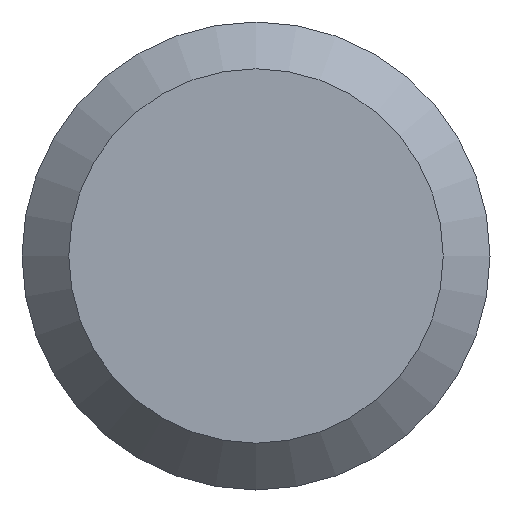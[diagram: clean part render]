
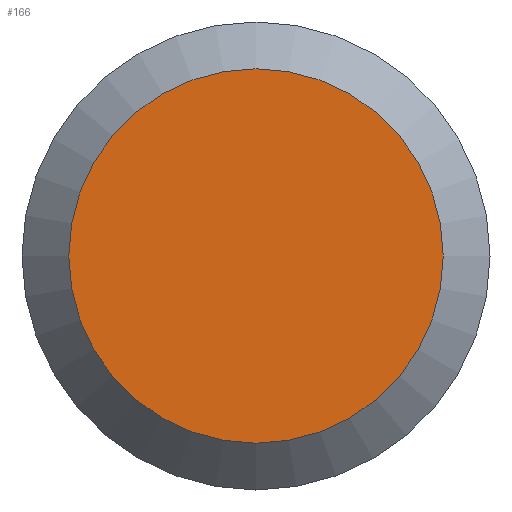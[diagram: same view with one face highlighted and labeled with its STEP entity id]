
A CAD part, left-side view. The second image highlights one B-rep face of the part: STEP entity #166.
In plain terms, the highlighted planar face has unit normal (-1, 0, 0).
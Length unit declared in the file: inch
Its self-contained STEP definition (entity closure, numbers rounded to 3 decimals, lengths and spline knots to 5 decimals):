
#5 = CARTESIAN_POINT ( 'NONE',  ( 0., 0., -0.1208 ) ) ;
#15 = ORIENTED_EDGE ( 'NONE', *, *, #18, .T. ) ;
#18 = EDGE_CURVE ( 'NONE', #243, #243, #53, .T. ) ;
#20 = DIRECTION ( 'NONE',  ( 0., 0., -1. ) ) ;
#21 = DIRECTION ( 'NONE',  ( 1., 0., 0. ) ) ;
#22 = EDGE_LOOP ( 'NONE', ( #15 ) ) ;
#26 = DIRECTION ( 'NONE',  ( 0., 0., -1. ) ) ;
#53 = CIRCLE ( 'NONE', #228, 0.1208 ) ;
#59 = CARTESIAN_POINT ( 'NONE',  ( 0., 0., 0. ) ) ;
#116 = PLANE ( 'NONE',  #155 ) ;
#119 = CARTESIAN_POINT ( 'NONE',  ( 0., 0.151, 0. ) ) ;
#124 = DIRECTION ( 'NONE',  ( -1., 0., 0. ) ) ;
#155 = AXIS2_PLACEMENT_3D ( 'NONE', #119, #21, #26 ) ;
#166 = ADVANCED_FACE ( 'NONE', ( #244 ), #116, .F. ) ;
#228 = AXIS2_PLACEMENT_3D ( 'NONE', #59, #124, #20 ) ;
#243 = VERTEX_POINT ( 'NONE', #5 ) ;
#244 = FACE_OUTER_BOUND ( 'NONE', #22, .T. ) ;
